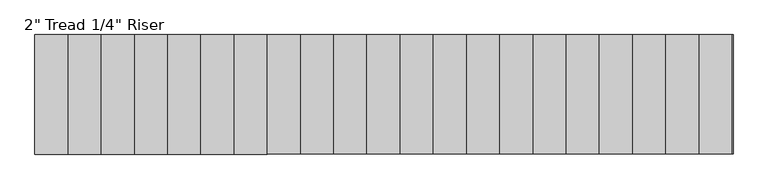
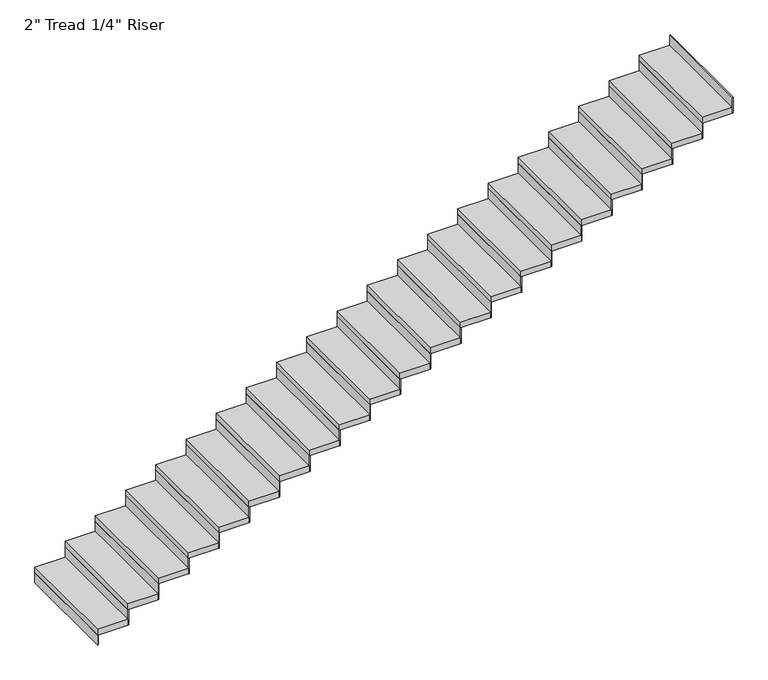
"""IFC4 building model written with IfcOpenShell, lengths in millimetres: stair flight geometry."""

from ifc_helpers import new_model, si_unit, frame, origin, origin_with_axes, place, context, project, spatial, polyline, outline, extrude, source, transform, mapped, element, save


def stair_flight_504623b8(model_context):
    return source(origin(), model_context, "Body", "SweptSolid", [
        extrude(outline(polyline([(35788.4072927, -68793.8034511), (35782.0572927, -68793.8034511), (35782.0572927, -67879.4034511), (35788.4072927, -67879.4034511), (35788.4072927, -68793.8034511)])), origin_with_axes(), (0.0, 0.0, 1.0), 87.7454545),
        extrude(outline(polyline([(36036.0572927, -67879.4034511), (36036.0572927, -68793.8034511), (35782.0572927, -68793.8034511), (35782.0572927, -67879.4034511), (36036.0572927, -67879.4034511)])), frame((0.0, 0.0, 87.7454545), z_axis=(0.0, 0.0, 1.0), x_axis=(1.0, 0.0, 0.0)), (0.0, 0.0, 1.0), 50.8),
        extrude(outline(polyline([(36042.4072927, -68793.8034511), (36036.0572927, -68793.8034511), (36036.0572927, -67879.4034511), (36042.4072927, -67879.4034511), (36042.4072927, -68793.8034511)])), frame((0.0, 0.0, 87.7454545), z_axis=(0.0, 0.0, 1.0), x_axis=(1.0, 0.0, 0.0)), (0.0, 0.0, 1.0), 138.5454545),
        extrude(outline(polyline([(36290.0572927, -67879.4034511), (36290.0572927, -68793.8034511), (36036.0572927, -68793.8034511), (36036.0572927, -67879.4034511), (36290.0572927, -67879.4034511)])), frame((0.0, 0.0, 226.2909091), z_axis=(0.0, 0.0, 1.0), x_axis=(1.0, 0.0, 0.0)), (0.0, 0.0, 1.0), 50.8),
        extrude(outline(polyline([(36296.4072927, -68793.8034511), (36290.0572927, -68793.8034511), (36290.0572927, -67879.4034511), (36296.4072927, -67879.4034511), (36296.4072927, -68793.8034511)])), frame((0.0, 0.0, 226.2909091), z_axis=(0.0, 0.0, 1.0), x_axis=(1.0, 0.0, 0.0)), (0.0, 0.0, 1.0), 138.5454545),
        extrude(outline(polyline([(36544.0572927, -67879.4034511), (36544.0572927, -68793.8034511), (36290.0572927, -68793.8034511), (36290.0572927, -67879.4034511), (36544.0572927, -67879.4034511)])), frame((0.0, 0.0, 364.8363636), z_axis=(0.0, 0.0, 1.0), x_axis=(1.0, 0.0, 0.0)), (0.0, 0.0, 1.0), 50.8),
        extrude(outline(polyline([(36550.4072927, -68793.8034511), (36544.0572927, -68793.8034511), (36544.0572927, -67879.4034511), (36550.4072927, -67879.4034511), (36550.4072927, -68793.8034511)])), frame((0.0, 0.0, 364.8363636), z_axis=(0.0, 0.0, 1.0), x_axis=(1.0, 0.0, 0.0)), (0.0, 0.0, 1.0), 138.5454545),
        extrude(outline(polyline([(36798.0572927, -67879.4034511), (36798.0572927, -68793.8034511), (36544.0572927, -68793.8034511), (36544.0572927, -67879.4034511), (36798.0572927, -67879.4034511)])), frame((0.0, 0.0, 503.3818182), z_axis=(0.0, 0.0, 1.0), x_axis=(1.0, 0.0, 0.0)), (0.0, 0.0, 1.0), 50.8),
        extrude(outline(polyline([(36804.4072927, -68793.8034511), (36798.0572927, -68793.8034511), (36798.0572927, -67879.4034511), (36804.4072927, -67879.4034511), (36804.4072927, -68793.8034511)])), frame((0.0, 0.0, 503.3818182), z_axis=(0.0, 0.0, 1.0), x_axis=(1.0, 0.0, 0.0)), (0.0, 0.0, 1.0), 138.5454545),
        extrude(outline(polyline([(37052.0572927, -67879.4034511), (37052.0572927, -68793.8034511), (36798.0572927, -68793.8034511), (36798.0572927, -67879.4034511), (37052.0572927, -67879.4034511)])), frame((0.0, 0.0, 641.9272727), z_axis=(0.0, 0.0, 1.0), x_axis=(1.0, 0.0, 0.0)), (0.0, 0.0, 1.0), 50.8),
        extrude(outline(polyline([(37058.4072927, -68793.8034511), (37052.0572927, -68793.8034511), (37052.0572927, -67879.4034511), (37058.4072927, -67879.4034511), (37058.4072927, -68793.8034511)])), frame((0.0, 0.0, 641.9272727), z_axis=(0.0, 0.0, 1.0), x_axis=(1.0, 0.0, 0.0)), (0.0, 0.0, 1.0), 138.5454545),
        extrude(outline(polyline([(37306.0572927, -67879.4034511), (37306.0572927, -68793.8034511), (37052.0572927, -68793.8034511), (37052.0572927, -67879.4034511), (37306.0572927, -67879.4034511)])), frame((0.0, 0.0, 780.4727273), z_axis=(0.0, 0.0, 1.0), x_axis=(1.0, 0.0, 0.0)), (0.0, 0.0, 1.0), 50.8),
        extrude(outline(polyline([(37312.4072927, -68793.8034511), (37306.0572927, -68793.8034511), (37306.0572927, -67879.4034511), (37312.4072927, -67879.4034511), (37312.4072927, -68793.8034511)])), frame((0.0, 0.0, 780.4727273), z_axis=(0.0, 0.0, 1.0), x_axis=(1.0, 0.0, 0.0)), (0.0, 0.0, 1.0), 138.5454545),
        extrude(outline(polyline([(37560.0572927, -67879.4034511), (37560.0572927, -68793.8034511), (37306.0572927, -68793.8034511), (37306.0572927, -67879.4034511), (37560.0572927, -67879.4034511)])), frame((0.0, 0.0, 919.0181818), z_axis=(0.0, 0.0, 1.0), x_axis=(1.0, 0.0, 0.0)), (0.0, 0.0, 1.0), 50.8),
        extrude(outline(polyline([(37566.4072927, -68793.8034511), (37560.0572927, -68793.8034511), (37560.0572927, -67879.4034511), (37566.4072927, -67879.4034511), (37566.4072927, -68793.8034511)])), frame((0.0, 0.0, 919.0181818), z_axis=(0.0, 0.0, 1.0), x_axis=(1.0, 0.0, 0.0)), (0.0, 0.0, 1.0), 138.5454545),
        extrude(outline(polyline([(37814.0572927, -67879.4034511), (37814.0572927, -68793.8034511), (37560.0572927, -68793.8034511), (37560.0572927, -67879.4034511), (37814.0572927, -67879.4034511)])), frame((0.0, 0.0, 1057.5636364), z_axis=(0.0, 0.0, 1.0), x_axis=(1.0, 0.0, 0.0)), (0.0, 0.0, 1.0), 50.8),
        extrude(outline(polyline([(37820.4072927, -68793.8034511), (37814.0572927, -68793.8034511), (37814.0572927, -67879.4034511), (37820.4072927, -67879.4034511), (37820.4072927, -68793.8034511)])), frame((0.0, 0.0, 1057.5636364), z_axis=(0.0, 0.0, 1.0), x_axis=(1.0, 0.0, 0.0)), (0.0, 0.0, 1.0), 138.5454545),
        extrude(outline(polyline([(38068.0572927, -67879.4034511), (38068.0572927, -68793.8034511), (37814.0572927, -68793.8034511), (37814.0572927, -67879.4034511), (38068.0572927, -67879.4034511)])), frame((0.0, 0.0, 1196.1090909), z_axis=(0.0, 0.0, 1.0), x_axis=(1.0, 0.0, 0.0)), (0.0, 0.0, 1.0), 50.8),
        extrude(outline(polyline([(38074.4072927, -68793.8034511), (38068.0572927, -68793.8034511), (38068.0572927, -67879.4034511), (38074.4072927, -67879.4034511), (38074.4072927, -68793.8034511)])), frame((0.0, 0.0, 1196.1090909), z_axis=(0.0, 0.0, 1.0), x_axis=(1.0, 0.0, 0.0)), (0.0, 0.0, 1.0), 138.5454545),
        extrude(outline(polyline([(38322.0572927, -67879.4034511), (38322.0572927, -68793.8034511), (38068.0572927, -68793.8034511), (38068.0572927, -67879.4034511), (38322.0572927, -67879.4034511)])), frame((0.0, 0.0, 1334.6545455), z_axis=(0.0, 0.0, 1.0), x_axis=(1.0, 0.0, 0.0)), (0.0, 0.0, 1.0), 50.8),
        extrude(outline(polyline([(38328.4072927, -68793.8034511), (38322.0572927, -68793.8034511), (38322.0572927, -67879.4034511), (38328.4072927, -67879.4034511), (38328.4072927, -68793.8034511)])), frame((0.0, 0.0, 1334.6545455), z_axis=(0.0, 0.0, 1.0), x_axis=(1.0, 0.0, 0.0)), (0.0, 0.0, 1.0), 138.5454545),
        extrude(outline(polyline([(38576.0572927, -67879.4034511), (38576.0572927, -68793.8034511), (38322.0572927, -68793.8034511), (38322.0572927, -67879.4034511), (38576.0572927, -67879.4034511)])), frame((0.0, 0.0, 1473.2), z_axis=(0.0, 0.0, 1.0), x_axis=(1.0, 0.0, 0.0)), (0.0, 0.0, 1.0), 50.8),
        extrude(outline(polyline([(38582.4072927, -68793.8034511), (38576.0572927, -68793.8034511), (38576.0572927, -67879.4034511), (38582.4072927, -67879.4034511), (38582.4072927, -68793.8034511)])), frame((0.0, 0.0, 1473.2), z_axis=(0.0, 0.0, 1.0), x_axis=(1.0, 0.0, 0.0)), (0.0, 0.0, 1.0), 138.5454545),
        extrude(outline(polyline([(38830.0572927, -67879.4034511), (38830.0572927, -68793.8034511), (38576.0572927, -68793.8034511), (38576.0572927, -67879.4034511), (38830.0572927, -67879.4034511)])), frame((0.0, 0.0, 1611.7454545), z_axis=(0.0, 0.0, 1.0), x_axis=(1.0, 0.0, 0.0)), (0.0, 0.0, 1.0), 50.8),
        extrude(outline(polyline([(38836.4072927, -68793.8034511), (38830.0572927, -68793.8034511), (38830.0572927, -67879.4034511), (38836.4072927, -67879.4034511), (38836.4072927, -68793.8034511)])), frame((0.0, 0.0, 1611.7454545), z_axis=(0.0, 0.0, 1.0), x_axis=(1.0, 0.0, 0.0)), (0.0, 0.0, 1.0), 138.5454545),
        extrude(outline(polyline([(39084.0572927, -67879.4034511), (39084.0572927, -68793.8034511), (38830.0572927, -68793.8034511), (38830.0572927, -67879.4034511), (39084.0572927, -67879.4034511)])), frame((0.0, 0.0, 1750.2909091), z_axis=(0.0, 0.0, 1.0), x_axis=(1.0, 0.0, 0.0)), (0.0, 0.0, 1.0), 50.8),
        extrude(outline(polyline([(39090.4072927, -68793.8034511), (39084.0572927, -68793.8034511), (39084.0572927, -67879.4034511), (39090.4072927, -67879.4034511), (39090.4072927, -68793.8034511)])), frame((0.0, 0.0, 1750.2909091), z_axis=(0.0, 0.0, 1.0), x_axis=(1.0, 0.0, 0.0)), (0.0, 0.0, 1.0), 138.5454545),
        extrude(outline(polyline([(39338.0572927, -67879.4034511), (39338.0572927, -68793.8034511), (39084.0572927, -68793.8034511), (39084.0572927, -67879.4034511), (39338.0572927, -67879.4034511)])), frame((0.0, 0.0, 1888.8363636), z_axis=(0.0, 0.0, 1.0), x_axis=(1.0, 0.0, 0.0)), (0.0, 0.0, 1.0), 50.8),
        extrude(outline(polyline([(39344.4072927, -68793.8034511), (39338.0572927, -68793.8034511), (39338.0572927, -67879.4034511), (39344.4072927, -67879.4034511), (39344.4072927, -68793.8034511)])), frame((0.0, 0.0, 1888.8363636), z_axis=(0.0, 0.0, 1.0), x_axis=(1.0, 0.0, 0.0)), (0.0, 0.0, 1.0), 138.5454545),
        extrude(outline(polyline([(39592.0572927, -67879.4034511), (39592.0572927, -68793.8034511), (39338.0572927, -68793.8034511), (39338.0572927, -67879.4034511), (39592.0572927, -67879.4034511)])), frame((0.0, 0.0, 2027.3818182), z_axis=(0.0, 0.0, 1.0), x_axis=(1.0, 0.0, 0.0)), (0.0, 0.0, 1.0), 50.8),
        extrude(outline(polyline([(39598.4072927, -68793.8034511), (39592.0572927, -68793.8034511), (39592.0572927, -67879.4034511), (39598.4072927, -67879.4034511), (39598.4072927, -68793.8034511)])), frame((0.0, 0.0, 2027.3818182), z_axis=(0.0, 0.0, 1.0), x_axis=(1.0, 0.0, 0.0)), (0.0, 0.0, 1.0), 138.5454545),
        extrude(outline(polyline([(39846.0572927, -67879.4034511), (39846.0572927, -68793.8034511), (39592.0572927, -68793.8034511), (39592.0572927, -67879.4034511), (39846.0572927, -67879.4034511)])), frame((0.0, 0.0, 2165.9272727), z_axis=(0.0, 0.0, 1.0), x_axis=(1.0, 0.0, 0.0)), (0.0, 0.0, 1.0), 50.8),
        extrude(outline(polyline([(39852.4072927, -68793.8034511), (39846.0572927, -68793.8034511), (39846.0572927, -67879.4034511), (39852.4072927, -67879.4034511), (39852.4072927, -68793.8034511)])), frame((0.0, 0.0, 2165.9272727), z_axis=(0.0, 0.0, 1.0), x_axis=(1.0, 0.0, 0.0)), (0.0, 0.0, 1.0), 138.5454545),
        extrude(outline(polyline([(40100.0572927, -67879.4034511), (40100.0572927, -68793.8034511), (39846.0572927, -68793.8034511), (39846.0572927, -67879.4034511), (40100.0572927, -67879.4034511)])), frame((0.0, 0.0, 2304.4727273), z_axis=(0.0, 0.0, 1.0), x_axis=(1.0, 0.0, 0.0)), (0.0, 0.0, 1.0), 50.8),
        extrude(outline(polyline([(40106.4072927, -68793.8034511), (40100.0572927, -68793.8034511), (40100.0572927, -67879.4034511), (40106.4072927, -67879.4034511), (40106.4072927, -68793.8034511)])), frame((0.0, 0.0, 2304.4727273), z_axis=(0.0, 0.0, 1.0), x_axis=(1.0, 0.0, 0.0)), (0.0, 0.0, 1.0), 138.5454545),
        extrude(outline(polyline([(40354.0572927, -67879.4034511), (40354.0572927, -68793.8034511), (40100.0572927, -68793.8034511), (40100.0572927, -67879.4034511), (40354.0572927, -67879.4034511)])), frame((0.0, 0.0, 2443.0181818), z_axis=(0.0, 0.0, 1.0), x_axis=(1.0, 0.0, 0.0)), (0.0, 0.0, 1.0), 50.8),
        extrude(outline(polyline([(40360.4072927, -68793.8034511), (40354.0572927, -68793.8034511), (40354.0572927, -67879.4034511), (40360.4072927, -67879.4034511), (40360.4072927, -68793.8034511)])), frame((0.0, 0.0, 2443.0181818), z_axis=(0.0, 0.0, 1.0), x_axis=(1.0, 0.0, 0.0)), (0.0, 0.0, 1.0), 138.5454545),
        extrude(outline(polyline([(40608.0572927, -67879.4034511), (40608.0572927, -68793.8034511), (40354.0572927, -68793.8034511), (40354.0572927, -67879.4034511), (40608.0572927, -67879.4034511)])), frame((0.0, 0.0, 2581.5636364), z_axis=(0.0, 0.0, 1.0), x_axis=(1.0, 0.0, 0.0)), (0.0, 0.0, 1.0), 50.8),
        extrude(outline(polyline([(40614.4072927, -68793.8034511), (40608.0572927, -68793.8034511), (40608.0572927, -67879.4034511), (40614.4072927, -67879.4034511), (40614.4072927, -68793.8034511)])), frame((0.0, 0.0, 2581.5636364), z_axis=(0.0, 0.0, 1.0), x_axis=(1.0, 0.0, 0.0)), (0.0, 0.0, 1.0), 138.5454545),
        extrude(outline(polyline([(40862.0572927, -67879.4034511), (40862.0572927, -68793.8034511), (40608.0572927, -68793.8034511), (40608.0572927, -67879.4034511), (40862.0572927, -67879.4034511)])), frame((0.0, 0.0, 2720.1090909), z_axis=(0.0, 0.0, 1.0), x_axis=(1.0, 0.0, 0.0)), (0.0, 0.0, 1.0), 50.8),
        extrude(outline(polyline([(40868.4072927, -68793.8034511), (40862.0572927, -68793.8034511), (40862.0572927, -67879.4034511), (40868.4072927, -67879.4034511), (40868.4072927, -68793.8034511)])), frame((0.0, 0.0, 2720.1090909), z_axis=(0.0, 0.0, 1.0), x_axis=(1.0, 0.0, 0.0)), (0.0, 0.0, 1.0), 138.5454545),
        extrude(outline(polyline([(41122.4072927, -68793.8034511), (41116.0572927, -68793.8034511), (41116.0572927, -67879.4034511), (41122.4072927, -67879.4034511), (41122.4072927, -68793.8034511)])), frame((0.0, 0.0, 2858.6545455), z_axis=(0.0, 0.0, 1.0), x_axis=(1.0, 0.0, 0.0)), (0.0, 0.0, 1.0), 138.5454545),
        extrude(outline(polyline([(41116.0572927, -67879.4034511), (41116.0572927, -68793.8034511), (40862.0572927, -68793.8034511), (40862.0572927, -67879.4034511), (41116.0572927, -67879.4034511)])), frame((0.0, 0.0, 2858.6545455), z_axis=(0.0, 0.0, 1.0), x_axis=(1.0, 0.0, 0.0)), (0.0, 0.0, 1.0), 50.8),
    ])


if __name__ == "__main__":
    model = new_model("IFC4")
    model_context = context("Model", 3, world=origin())
    ifc_project = project(units=[si_unit("LENGTHUNIT", "METRE", prefix="MILLI")], contexts=[model_context])
    site = spatial("IfcSite", under=ifc_project)
    building = spatial("IfcBuilding", under=site)
    placement = place(None, origin())
    stair_flight_shape = stair_flight_504623b8(model_context)
    element("IfcStairFlight", 1, ObjectType="2\" Tread 1/4\" Riser", at=placement, inside=building, context=model_context, shape_type="MappedRepresentation", body=[
        mapped(stair_flight_shape, transform((0.0, 0.0, 0.0), x_axis=(1.0, 0.0, 0.0), y_axis=(0.0, 1.0, 0.0), z_axis=(0.0, 0.0, 1.0))),
    ])
    save(model, "model.ifc")
